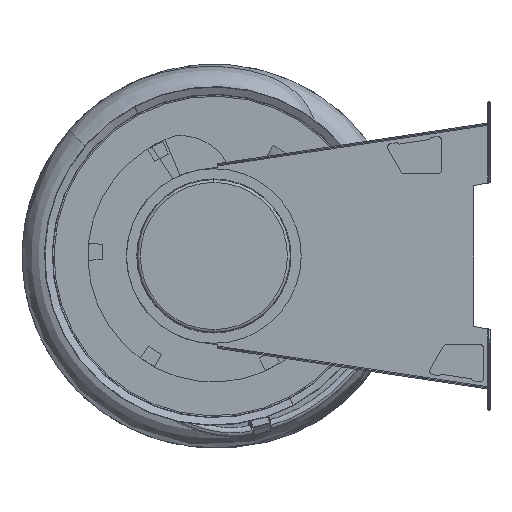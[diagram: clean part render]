
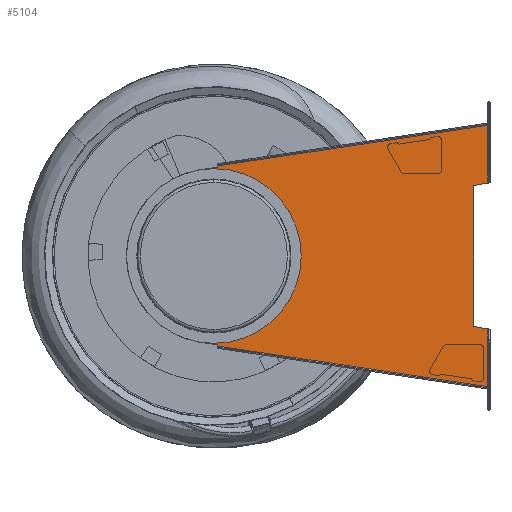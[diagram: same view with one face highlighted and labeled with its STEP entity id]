
A CAD part, left-side view. The second image highlights one B-rep face of the part: STEP entity #5104.
In plain terms, the highlighted planar face has unit normal (-1, 0, 0).
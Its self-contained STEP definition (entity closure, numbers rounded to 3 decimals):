
#3666=DIRECTION('',(0.,0.,1.));
#3667=VECTOR('',#3666,250.);
#3668=CARTESIAN_POINT('',(-724.,-461.142,-125.));
#3669=LINE('',#3668,#3667);
#3682=CARTESIAN_POINT('',(-724.,0.,0.));
#3683=DIRECTION('',(-1.,0.,0.));
#3684=DIRECTION('',(0.,1.,0.));
#3685=AXIS2_PLACEMENT_3D('',#3682,#3683,#3684);
#3687=CARTESIAN_POINT('',(-724.,0.,0.));
#3688=DIRECTION('',(-1.,0.,0.));
#3689=DIRECTION('',(0.,-1.,0.));
#3690=AXIS2_PLACEMENT_3D('',#3687,#3688,#3689);
#3692=DIRECTION('',(0.,-0.989,0.149));
#3693=VECTOR('',#3692,3.105);
#3694=CARTESIAN_POINT('',(-724.,23.07,153.273));
#3695=LINE('',#3694,#3693);
#3696=DIRECTION('',(0.,-0.989,0.149));
#3697=VECTOR('',#3696,6.895);
#3698=CARTESIAN_POINT('',(-724.,20.,153.736));
#3699=LINE('',#3698,#3697);
#3700=DIRECTION('',(0.,-0.989,0.149));
#3701=VECTOR('',#3700,20.342);
#3702=CARTESIAN_POINT('',(-724.,13.182,154.762));
#3703=LINE('',#3702,#3701);
#3704=CARTESIAN_POINT('',(-724.,-21.767,160.022));
#3705=DIRECTION('',(1.,0.,0.));
#3706=DIRECTION('',(0.,0.989,-0.149));
#3707=AXIS2_PLACEMENT_3D('',#3704,#3705,#3706);
#3709=DIRECTION('',(0.,0.989,-0.149));
#3710=VECTOR('',#3709,3.853);
#3711=CARTESIAN_POINT('',(-724.,-486.,231.92));
#3712=LINE('',#3711,#3710);
#3713=DIRECTION('',(0.,0.,-1.));
#3714=VECTOR('',#3713,102.537);
#3715=CARTESIAN_POINT('',(-724.,-486.,231.92));
#3716=LINE('',#3715,#3714);
#3717=DIRECTION('',(0.,0.985,-0.174));
#3718=VECTOR('',#3717,25.242);
#3719=CARTESIAN_POINT('',(-724.,-486.,129.383));
#3720=LINE('',#3719,#3718);
#3721=DIRECTION('',(0.,0.985,0.174));
#3722=VECTOR('',#3721,25.242);
#3723=CARTESIAN_POINT('',(-724.,-486.,-129.383));
#3724=LINE('',#3723,#3722);
#3725=DIRECTION('',(0.,0.,-1.));
#3726=VECTOR('',#3725,102.537);
#3727=CARTESIAN_POINT('',(-724.,-486.,-129.383));
#3728=LINE('',#3727,#3726);
#3729=DIRECTION('',(0.,0.989,0.149));
#3730=VECTOR('',#3729,3.853);
#3731=CARTESIAN_POINT('',(-724.,-486.,-231.92));
#3732=LINE('',#3731,#3730);
#3733=CARTESIAN_POINT('',(-724.,-21.767,-160.022));
#3734=DIRECTION('',(1.,0.,0.));
#3735=DIRECTION('',(0.,1.,0.016));
#3736=AXIS2_PLACEMENT_3D('',#3733,#3734,#3735);
#3738=DIRECTION('',(0.,-0.989,-0.149));
#3739=VECTOR('',#3738,20.342);
#3740=CARTESIAN_POINT('',(-724.,13.182,-154.762));
#3741=LINE('',#3740,#3739);
#3742=DIRECTION('',(0.,-0.989,-0.149));
#3743=VECTOR('',#3742,6.895);
#3744=CARTESIAN_POINT('',(-724.,20.,-153.736));
#3745=LINE('',#3744,#3743);
#3746=DIRECTION('',(0.,-0.989,-0.149));
#3747=VECTOR('',#3746,3.105);
#3748=CARTESIAN_POINT('',(-724.,23.07,-153.273));
#3749=LINE('',#3748,#3747);
#3755=CARTESIAN_POINT('',(-724.,0.,0.));
#3756=DIRECTION('',(-1.,0.,0.));
#3757=DIRECTION('',(0.,0.149,0.989));
#3758=AXIS2_PLACEMENT_3D('',#3755,#3756,#3757);
#3792=CARTESIAN_POINT('',(-724.,-6.769,159.787));
#3815=DIRECTION('',(0.,-0.989,0.149));
#3816=VECTOR('',#3815,480.777);
#3817=CARTESIAN_POINT('',(-724.,-6.769,159.787));
#3818=LINE('',#3817,#3816);
#4547=CARTESIAN_POINT('',(-724.,-6.769,-159.787));
#4561=DIRECTION('',(0.,-0.989,-0.149));
#4562=VECTOR('',#4561,480.777);
#4563=CARTESIAN_POINT('',(-724.,-6.769,-159.787));
#4564=LINE('',#4563,#4562);
#4706=CARTESIAN_POINT('',(-724.,-33.,0.));
#4707=CARTESIAN_POINT('',(-724.,33.,0.));
#4708=VERTEX_POINT('',#4706);
#4709=VERTEX_POINT('',#4707);
#4711=CARTESIAN_POINT('',(-724.,23.07,-153.273));
#4713=VERTEX_POINT('',#4711);
#4730=CARTESIAN_POINT('',(-724.,-486.,-231.92));
#4731=CARTESIAN_POINT('',(-724.,-482.19,-231.347));
#4732=VERTEX_POINT('',#4730);
#4733=VERTEX_POINT('',#4731);
#4784=CARTESIAN_POINT('',(-724.,-486.,-129.383));
#4785=VERTEX_POINT('',#4784);
#4787=CARTESIAN_POINT('',(-724.,23.07,153.273));
#4789=VERTEX_POINT('',#4787);
#4806=CARTESIAN_POINT('',(-724.,-486.,231.92));
#4807=CARTESIAN_POINT('',(-724.,-482.19,231.347));
#4808=VERTEX_POINT('',#4806);
#4809=VERTEX_POINT('',#4807);
#4847=CARTESIAN_POINT('',(-724.,-486.,129.383));
#4848=VERTEX_POINT('',#4847);
#4853=CARTESIAN_POINT('',(-724.,-461.142,-125.));
#4854=VERTEX_POINT('',#4853);
#4859=CARTESIAN_POINT('',(-724.,-461.142,125.));
#4860=VERTEX_POINT('',#4859);
#4869=CARTESIAN_POINT('',(-724.,20.,-153.736));
#4870=CARTESIAN_POINT('',(-724.,13.182,-154.762));
#4871=VERTEX_POINT('',#4869);
#4872=VERTEX_POINT('',#4870);
#4878=VERTEX_POINT('',#4547);
#4887=CARTESIAN_POINT('',(-724.,20.,153.736));
#4888=CARTESIAN_POINT('',(-724.,13.182,154.762));
#4889=VERTEX_POINT('',#4887);
#4890=VERTEX_POINT('',#4888);
#4896=VERTEX_POINT('',#3792);
#4915=CARTESIAN_POINT('',(-724.,-6.934,-157.79));
#4916=VERTEX_POINT('',#4915);
#4919=CARTESIAN_POINT('',(-724.,-6.934,157.79));
#4920=VERTEX_POINT('',#4919);
#5056=CARTESIAN_POINT('',(-724.,0.,0.));
#5057=DIRECTION('',(-1.,0.,0.));
#5058=DIRECTION('',(0.,0.,1.));
#5059=AXIS2_PLACEMENT_3D('',#5056,#5057,#5058);
#5060=PLANE('',#5059);
#5062=ORIENTED_EDGE('',*,*,#5061,.F.);
#5064=ORIENTED_EDGE('',*,*,#5063,.T.);
#5066=ORIENTED_EDGE('',*,*,#5065,.T.);
#5068=ORIENTED_EDGE('',*,*,#5067,.T.);
#5070=ORIENTED_EDGE('',*,*,#5069,.T.);
#5072=ORIENTED_EDGE('',*,*,#5071,.T.);
#5074=ORIENTED_EDGE('',*,*,#5073,.F.);
#5076=ORIENTED_EDGE('',*,*,#5075,.T.);
#5078=ORIENTED_EDGE('',*,*,#5077,.T.);
#5079=ORIENTED_EDGE('',*,*,#5039,.F.);
#5081=ORIENTED_EDGE('',*,*,#5080,.F.);
#5083=ORIENTED_EDGE('',*,*,#5082,.T.);
#5085=ORIENTED_EDGE('',*,*,#5084,.T.);
#5087=ORIENTED_EDGE('',*,*,#5086,.F.);
#5089=ORIENTED_EDGE('',*,*,#5088,.T.);
#5091=ORIENTED_EDGE('',*,*,#5090,.F.);
#5093=ORIENTED_EDGE('',*,*,#5092,.F.);
#5095=ORIENTED_EDGE('',*,*,#5094,.F.);
#5096=EDGE_LOOP('',(#5062,#5064,#5066,#5068,#5070,#5072,#5074,#5076,#5078,#5079,
#5081,#5083,#5085,#5087,#5089,#5091,#5093,#5095));
#5097=FACE_OUTER_BOUND('',#5096,.F.);
#5099=ORIENTED_EDGE('',*,*,#5098,.T.);
#5101=ORIENTED_EDGE('',*,*,#5100,.T.);
#5102=EDGE_LOOP('',(#5099,#5101));
#5103=FACE_BOUND('',#5102,.F.);
#3686=CIRCLE('',#3685,33.);
#3691=CIRCLE('',#3690,33.);
#3708=CIRCLE('',#3707,15.);
#3737=CIRCLE('',#3736,15.);
#3759=CIRCLE('',#3758,155.);
#5039=EDGE_CURVE('',#4854,#4860,#3669,.T.);
#5061=EDGE_CURVE('',#4789,#4713,#3759,.T.);
#5063=EDGE_CURVE('',#4789,#4889,#3695,.T.);
#5065=EDGE_CURVE('',#4889,#4890,#3699,.T.);
#5067=EDGE_CURVE('',#4890,#4920,#3703,.T.);
#5069=EDGE_CURVE('',#4920,#4896,#3708,.T.);
#5071=EDGE_CURVE('',#4896,#4809,#3818,.T.);
#5073=EDGE_CURVE('',#4808,#4809,#3712,.T.);
#5075=EDGE_CURVE('',#4808,#4848,#3716,.T.);
#5077=EDGE_CURVE('',#4848,#4860,#3720,.T.);
#5080=EDGE_CURVE('',#4785,#4854,#3724,.T.);
#5082=EDGE_CURVE('',#4785,#4732,#3728,.T.);
#5084=EDGE_CURVE('',#4732,#4733,#3732,.T.);
#5086=EDGE_CURVE('',#4878,#4733,#4564,.T.);
#5088=EDGE_CURVE('',#4878,#4916,#3737,.T.);
#5090=EDGE_CURVE('',#4872,#4916,#3741,.T.);
#5092=EDGE_CURVE('',#4871,#4872,#3745,.T.);
#5094=EDGE_CURVE('',#4713,#4871,#3749,.T.);
#5098=EDGE_CURVE('',#4709,#4708,#3686,.T.);
#5100=EDGE_CURVE('',#4708,#4709,#3691,.T.);
#5104=ADVANCED_FACE('',(#5097,#5103),#5060,.T.);
